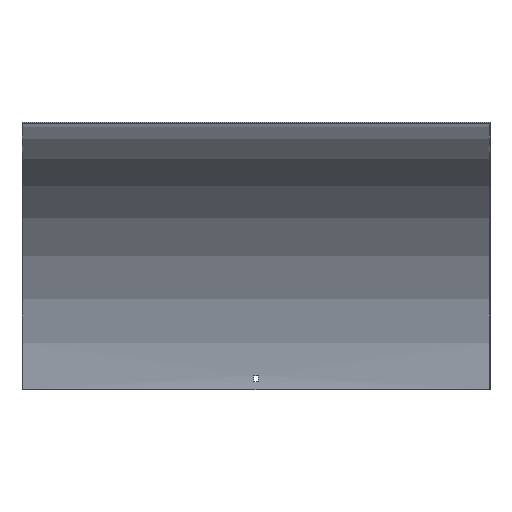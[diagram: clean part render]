
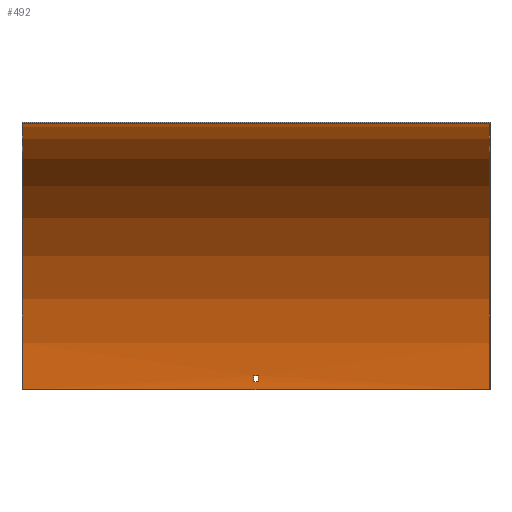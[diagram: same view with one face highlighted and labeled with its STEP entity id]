
A CAD part, front view. The second image highlights one B-rep face of the part: STEP entity #492.
In plain terms, the highlighted cylindrical face has radius 400 mm (diameter 800 mm), a partial arc.
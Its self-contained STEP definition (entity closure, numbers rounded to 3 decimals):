
#2 = DIRECTION ( 'NONE',  ( -1., 0., 0. ) ) ;
#14 = DIRECTION ( 'NONE',  ( 0., 0., 1. ) ) ;
#22 = DIRECTION ( 'NONE',  ( 0., 1., 0. ) ) ;
#28 = DIRECTION ( 'NONE',  ( -1., 0., 0. ) ) ;
#29 = ORIENTED_EDGE ( 'NONE', *, *, #120, .T. ) ;
#34 = VERTEX_POINT ( 'NONE', #55 ) ;
#41 = VERTEX_POINT ( 'NONE', #288 ) ;
#52 = LINE ( 'NONE', #526, #409 ) ;
#55 = CARTESIAN_POINT ( 'NONE',  ( -3.25, -380.5, 399.448 ) ) ;
#64 = CIRCLE ( 'NONE', #262, 400. ) ;
#65 = EDGE_CURVE ( 'NONE', #266, #98, #380, .T. ) ;
#71 = CARTESIAN_POINT ( 'NONE',  ( -3.25, -2.052, 21. ) ) ;
#75 = CARTESIAN_POINT ( 'NONE',  ( 3.25, -401.5, 0. ) ) ;
#78 = VERTEX_POINT ( 'NONE', #329 ) ;
#81 = CYLINDRICAL_SURFACE ( 'NONE', #182, 400. ) ;
#85 = AXIS2_PLACEMENT_3D ( 'NONE', #113, #293, #22 ) ;
#98 = VERTEX_POINT ( 'NONE', #244 ) ;
#104 = CARTESIAN_POINT ( 'NONE',  ( -3.25, -1.68, 12. ) ) ;
#106 = VERTEX_POINT ( 'NONE', #71 ) ;
#109 = VECTOR ( 'NONE', #297, 1000. ) ;
#112 = CARTESIAN_POINT ( 'NONE',  ( -350., -401.5, 0. ) ) ;
#113 = CARTESIAN_POINT ( 'NONE',  ( -3.25, -401.5, 0. ) ) ;
#115 = AXIS2_PLACEMENT_3D ( 'NONE', #242, #436, #14 ) ;
#117 = DIRECTION ( 'NONE',  ( 0., 0., -1. ) ) ;
#120 = EDGE_CURVE ( 'NONE', #407, #266, #437, .T. ) ;
#121 = EDGE_CURVE ( 'NONE', #98, #34, #199, .T. ) ;
#133 = CARTESIAN_POINT ( 'NONE',  ( -350., -1.5, 0. ) ) ;
#157 = DIRECTION ( 'NONE',  ( 1., 0., 0. ) ) ;
#161 = DIRECTION ( 'NONE',  ( -1., 0., 0. ) ) ;
#165 = EDGE_CURVE ( 'NONE', #34, #407, #399, .T. ) ;
#171 = CARTESIAN_POINT ( 'NONE',  ( 3.25, -1.68, 12. ) ) ;
#182 = AXIS2_PLACEMENT_3D ( 'NONE', #256, #447, #453 ) ;
#193 = ORIENTED_EDGE ( 'NONE', *, *, #303, .F. ) ;
#198 = CARTESIAN_POINT ( 'NONE',  ( 350., -401.5, 0. ) ) ;
#199 = LINE ( 'NONE', #493, #446 ) ;
#217 = FACE_OUTER_BOUND ( 'NONE', #252, .T. ) ;
#220 = CARTESIAN_POINT ( 'NONE',  ( -350., -401.5, 400. ) ) ;
#236 = EDGE_LOOP ( 'NONE', ( #468, #277, #423, #498 ) ) ;
#242 = CARTESIAN_POINT ( 'NONE',  ( 3.25, -401.5, 0. ) ) ;
#244 = CARTESIAN_POINT ( 'NONE',  ( 3.25, -380.5, 399.448 ) ) ;
#250 = DIRECTION ( 'NONE',  ( 1., 0., 0. ) ) ;
#252 = EDGE_LOOP ( 'NONE', ( #583, #193, #587, #265 ) ) ;
#256 = CARTESIAN_POINT ( 'NONE',  ( 351.5, -401.5, 0. ) ) ;
#262 = AXIS2_PLACEMENT_3D ( 'NONE', #198, #338, #117 ) ;
#265 = ORIENTED_EDGE ( 'NONE', *, *, #499, .T. ) ;
#266 = VERTEX_POINT ( 'NONE', #474 ) ;
#276 = LINE ( 'NONE', #333, #593 ) ;
#277 = ORIENTED_EDGE ( 'NONE', *, *, #299, .F. ) ;
#288 = CARTESIAN_POINT ( 'NONE',  ( 350., -401.5, 400. ) ) ;
#293 = DIRECTION ( 'NONE',  ( 1., 0., 0. ) ) ;
#297 = DIRECTION ( 'NONE',  ( 1., 0., 0. ) ) ;
#299 = EDGE_CURVE ( 'NONE', #430, #106, #276, .T. ) ;
#303 = EDGE_CURVE ( 'NONE', #78, #315, #52, .T. ) ;
#305 = VECTOR ( 'NONE', #161, 1000. ) ;
#315 = VERTEX_POINT ( 'NONE', #133 ) ;
#319 = EDGE_LOOP ( 'NONE', ( #531, #420, #29, #342 ) ) ;
#329 = CARTESIAN_POINT ( 'NONE',  ( 350., -1.5, 0. ) ) ;
#333 = CARTESIAN_POINT ( 'NONE',  ( 351.5, -2.052, 21. ) ) ;
#338 = DIRECTION ( 'NONE',  ( 1., 0., 0. ) ) ;
#341 = EDGE_CURVE ( 'NONE', #505, #430, #584, .T. ) ;
#342 = ORIENTED_EDGE ( 'NONE', *, *, #65, .T. ) ;
#344 = AXIS2_PLACEMENT_3D ( 'NONE', #466, #2, #427 ) ;
#353 = CARTESIAN_POINT ( 'NONE',  ( 351.5, -389.5, 399.82 ) ) ;
#361 = CARTESIAN_POINT ( 'NONE',  ( 350., -401.5, 400. ) ) ;
#380 = CIRCLE ( 'NONE', #115, 400. ) ;
#389 = CARTESIAN_POINT ( 'NONE',  ( 3.25, -2.052, 21. ) ) ;
#398 = FACE_BOUND ( 'NONE', #236, .T. ) ;
#399 = CIRCLE ( 'NONE', #85, 400. ) ;
#407 = VERTEX_POINT ( 'NONE', #484 ) ;
#409 = VECTOR ( 'NONE', #570, 1000. ) ;
#415 = VERTEX_POINT ( 'NONE', #104 ) ;
#420 = ORIENTED_EDGE ( 'NONE', *, *, #165, .T. ) ;
#423 = ORIENTED_EDGE ( 'NONE', *, *, #341, .F. ) ;
#424 = EDGE_CURVE ( 'NONE', #415, #505, #473, .T. ) ;
#426 = EDGE_CURVE ( 'NONE', #78, #41, #64, .T. ) ;
#427 = DIRECTION ( 'NONE',  ( 0., 0., 1. ) ) ;
#430 = VERTEX_POINT ( 'NONE', #389 ) ;
#434 = VECTOR ( 'NONE', #157, 1000. ) ;
#436 = DIRECTION ( 'NONE',  ( -1., 0., 0. ) ) ;
#437 = LINE ( 'NONE', #353, #109 ) ;
#444 = EDGE_CURVE ( 'NONE', #315, #522, #555, .T. ) ;
#445 = DIRECTION ( 'NONE',  ( 0., 0., -1. ) ) ;
#446 = VECTOR ( 'NONE', #28, 1000. ) ;
#447 = DIRECTION ( 'NONE',  ( -1., 0., 0. ) ) ;
#453 = DIRECTION ( 'NONE',  ( 0., 0., 1. ) ) ;
#466 = CARTESIAN_POINT ( 'NONE',  ( -3.25, -401.5, 0. ) ) ;
#468 = ORIENTED_EDGE ( 'NONE', *, *, #574, .F. ) ;
#469 = DIRECTION ( 'NONE',  ( -1., 0., 0. ) ) ;
#473 = LINE ( 'NONE', #580, #434 ) ;
#474 = CARTESIAN_POINT ( 'NONE',  ( 3.25, -389.5, 399.82 ) ) ;
#484 = CARTESIAN_POINT ( 'NONE',  ( -3.25, -389.5, 399.82 ) ) ;
#492 = ADVANCED_FACE ( 'NONE', ( #398, #217, #500 ), #81, .F. ) ;
#493 = CARTESIAN_POINT ( 'NONE',  ( 351.5, -380.5, 399.448 ) ) ;
#498 = ORIENTED_EDGE ( 'NONE', *, *, #424, .F. ) ;
#499 = EDGE_CURVE ( 'NONE', #41, #522, #595, .T. ) ;
#500 = FACE_BOUND ( 'NONE', #319, .T. ) ;
#505 = VERTEX_POINT ( 'NONE', #171 ) ;
#520 = AXIS2_PLACEMENT_3D ( 'NONE', #112, #250, #445 ) ;
#522 = VERTEX_POINT ( 'NONE', #220 ) ;
#526 = CARTESIAN_POINT ( 'NONE',  ( 350., -1.5, 0. ) ) ;
#531 = ORIENTED_EDGE ( 'NONE', *, *, #121, .T. ) ;
#532 = CIRCLE ( 'NONE', #344, 400. ) ;
#533 = DIRECTION ( 'NONE',  ( 1., 0., 0. ) ) ;
#536 = DIRECTION ( 'NONE',  ( 0., 0., -1. ) ) ;
#538 = AXIS2_PLACEMENT_3D ( 'NONE', #75, #533, #536 ) ;
#555 = CIRCLE ( 'NONE', #520, 400. ) ;
#570 = DIRECTION ( 'NONE',  ( -1., 0., 0. ) ) ;
#574 = EDGE_CURVE ( 'NONE', #106, #415, #532, .T. ) ;
#580 = CARTESIAN_POINT ( 'NONE',  ( 351.5, -1.68, 12. ) ) ;
#583 = ORIENTED_EDGE ( 'NONE', *, *, #444, .F. ) ;
#584 = CIRCLE ( 'NONE', #538, 400. ) ;
#587 = ORIENTED_EDGE ( 'NONE', *, *, #426, .T. ) ;
#593 = VECTOR ( 'NONE', #469, 1000. ) ;
#595 = LINE ( 'NONE', #361, #305 ) ;
